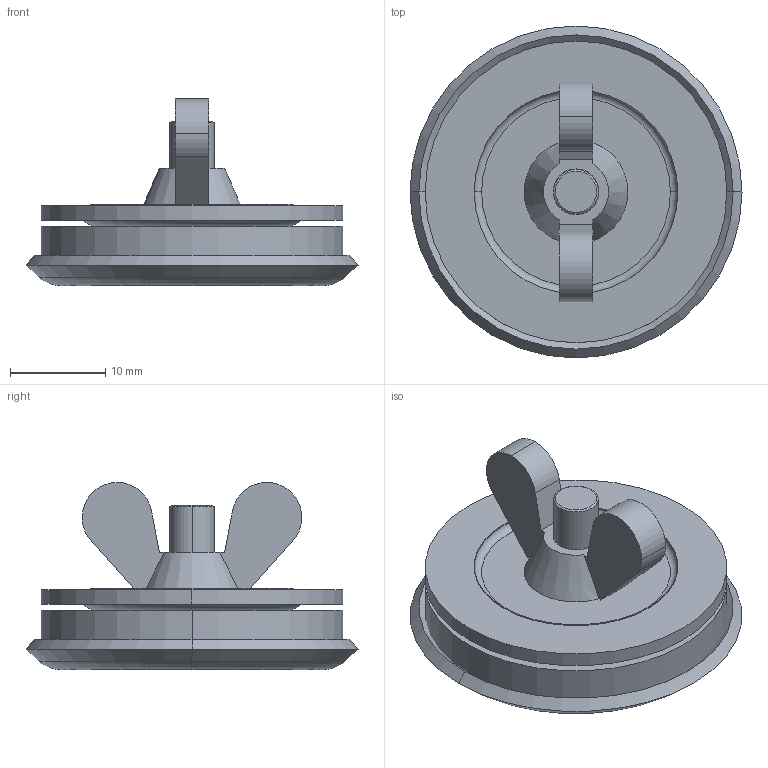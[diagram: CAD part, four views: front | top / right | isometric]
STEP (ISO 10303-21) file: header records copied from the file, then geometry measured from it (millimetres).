
FILE_DESCRIPTION (( 'STEP AP203' ), '1' );
FILE_NAME ('as050.STEP', '2014-01-13T18:51:59', ( 'User' ), ( 'Pentair Inc' ), 'SwSTEP 2.0', 'SolidWorks 2010', '' );
FILE_SCHEMA (( 'CONFIG_CONTROL_DESIGN' ));
Length unit declared in the file: inch
Products named in the file (7): 89043896; as050; 99401508; 58337002; 58136058; 99401402; 58116002
Assembly tree (6 placements, depth 3):
  as050
    99401402
    58116002
    89043896
      58337002
      99401508
    58136058
Bounding box: 34.93 x 34.93 x 19.68 mm (x, y, z)
Volume: 7342.9 mm3; surface area: 7053.5 mm2
Topology: 5 solids, 5 shells, 73 faces, 156 edges, 99 vertices
Faces by surface type: plane 21, cylinder 20, cone 14, torus 12, sphere 6
Entity records: 2791 total; most frequent: DIRECTION 416, CARTESIAN_POINT 358, ORIENTED_EDGE 312, AXIS2_PLACEMENT_3D 181, EDGE_CURVE 156, VERTEX_POINT 99, CIRCLE 98, EDGE_LOOP 85
